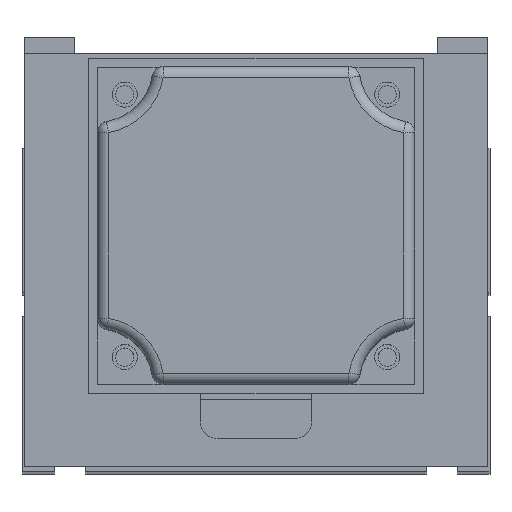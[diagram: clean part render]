
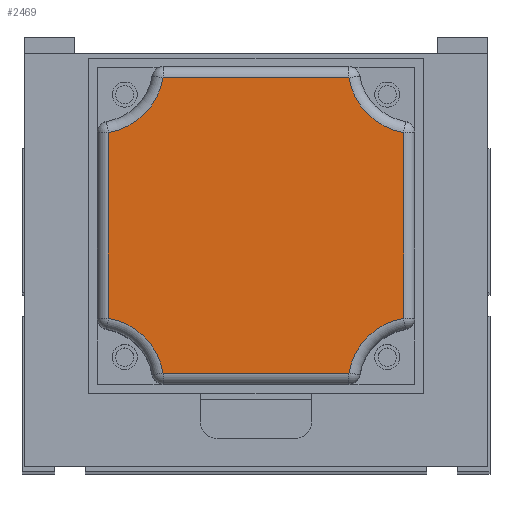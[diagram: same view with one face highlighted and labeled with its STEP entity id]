
A CAD part, top view. The second image highlights one B-rep face of the part: STEP entity #2469.
In plain terms, the highlighted planar face has unit normal (0, 0, 1).
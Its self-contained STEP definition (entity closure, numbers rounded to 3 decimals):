
#1079 = ORIENTED_EDGE ( 'NONE', *, *, #2620, .T. ) ;
#1502 = ORIENTED_EDGE ( 'NONE', *, *, #2414, .T. ) ;
#2375 = EDGE_LOOP ( 'NONE', ( #1502, #2595, #2468, #2593, #2467, #1079, #2604, #2608 ) ) ;
#2414 = EDGE_CURVE ( 'NONE', #2466, #2470, #4605, .T. ) ;
#2418 = VERTEX_POINT ( 'NONE', #4606 ) ;
#2457 = EDGE_CURVE ( 'NONE', #2418, #2589, #4685, .T. ) ;
#2466 = VERTEX_POINT ( 'NONE', #4678 ) ;
#2467 = ORIENTED_EDGE ( 'NONE', *, *, #2588, .T. ) ;
#2468 = ORIENTED_EDGE ( 'NONE', *, *, #2594, .T. ) ;
#2469 = ADVANCED_FACE ( 'NONE', ( #4722 ), #4662, .T. ) ;
#2470 = VERTEX_POINT ( 'NONE', #4712 ) ;
#2584 = VERTEX_POINT ( 'NONE', #4878 ) ;
#2588 = EDGE_CURVE ( 'NONE', #2589, #2592, #4879, .T. ) ;
#2589 = VERTEX_POINT ( 'NONE', #4875 ) ;
#2591 = EDGE_CURVE ( 'NONE', #2470, #2584, #4826, .T. ) ;
#2592 = VERTEX_POINT ( 'NONE', #4880 ) ;
#2593 = ORIENTED_EDGE ( 'NONE', *, *, #2457, .T. ) ;
#2594 = EDGE_CURVE ( 'NONE', #2584, #2418, #4864, .T. ) ;
#2595 = ORIENTED_EDGE ( 'NONE', *, *, #2591, .T. ) ;
#2602 = EDGE_CURVE ( 'NONE', #2609, #2607, #4902, .T. ) ;
#2604 = ORIENTED_EDGE ( 'NONE', *, *, #2602, .T. ) ;
#2605 = EDGE_CURVE ( 'NONE', #2607, #2466, #4877, .T. ) ;
#2607 = VERTEX_POINT ( 'NONE', #4888 ) ;
#2608 = ORIENTED_EDGE ( 'NONE', *, *, #2605, .T. ) ;
#2609 = VERTEX_POINT ( 'NONE', #4887 ) ;
#2620 = EDGE_CURVE ( 'NONE', #2592, #2609, #4649, .T. ) ;
#4603 = DIRECTION ( 'NONE',  ( -1., 0., 0. ) ) ;
#4604 = VECTOR ( 'NONE', #4603, 1000. ) ;
#4605 = LINE ( 'NONE', #4611, #4604 ) ;
#4606 = CARTESIAN_POINT ( 'NONE',  ( 15., 26.332, 151.5 ) ) ;
#4611 = CARTESIAN_POINT ( 'NONE',  ( 23., 69.5, 151.5 ) ) ;
#4631 = DIRECTION ( 'NONE',  ( 1., 0., 0. ) ) ;
#4632 = DIRECTION ( 'NONE',  ( 0., 0., -1. ) ) ;
#4633 = CARTESIAN_POINT ( 'NONE',  ( 70., 14.5, 151.5 ) ) ;
#4634 = AXIS2_PLACEMENT_3D ( 'NONE', #4633, #4632, #4631 ) ;
#4649 = CIRCLE ( 'NONE', #4634, 12. ) ;
#4662 = PLANE ( 'NONE',  #4720 ) ;
#4666 = DIRECTION ( 'NONE',  ( 1., 0., 0. ) ) ;
#4667 = DIRECTION ( 'NONE',  ( 0., 0., -1. ) ) ;
#4668 = CARTESIAN_POINT ( 'NONE',  ( 13., 14.5, 151.5 ) ) ;
#4669 = AXIS2_PLACEMENT_3D ( 'NONE', #4668, #4667, #4666 ) ;
#4678 = CARTESIAN_POINT ( 'NONE',  ( 58.168, 69.5, 151.5 ) ) ;
#4685 = CIRCLE ( 'NONE', #4669, 12. ) ;
#4707 = DIRECTION ( 'NONE',  ( 1., 0., 0. ) ) ;
#4708 = DIRECTION ( 'NONE',  ( 0., 0., 1. ) ) ;
#4709 = CARTESIAN_POINT ( 'NONE',  ( 70., 71.5, 151.5 ) ) ;
#4712 = CARTESIAN_POINT ( 'NONE',  ( 24.832, 69.5, 151.5 ) ) ;
#4720 = AXIS2_PLACEMENT_3D ( 'NONE', #4709, #4708, #4707 ) ;
#4722 = FACE_OUTER_BOUND ( 'NONE', #2375, .T. ) ;
#4826 = CIRCLE ( 'NONE', #4870, 12. ) ;
#4861 = DIRECTION ( 'NONE',  ( 0., -1., 0. ) ) ;
#4862 = VECTOR ( 'NONE', #4861, 1000. ) ;
#4863 = CARTESIAN_POINT ( 'NONE',  ( 15., 24.5, 151.5 ) ) ;
#4864 = LINE ( 'NONE', #4863, #4862 ) ;
#4867 = DIRECTION ( 'NONE',  ( 1., 0., 0. ) ) ;
#4868 = DIRECTION ( 'NONE',  ( 0., 0., -1. ) ) ;
#4869 = CARTESIAN_POINT ( 'NONE',  ( 13., 71.5, 151.5 ) ) ;
#4870 = AXIS2_PLACEMENT_3D ( 'NONE', #4869, #4868, #4867 ) ;
#4872 = DIRECTION ( 'NONE',  ( 1., 0., 0. ) ) ;
#4873 = VECTOR ( 'NONE', #4872, 1000. ) ;
#4874 = CARTESIAN_POINT ( 'NONE',  ( 60., 16.5, 151.5 ) ) ;
#4875 = CARTESIAN_POINT ( 'NONE',  ( 24.832, 16.5, 151.5 ) ) ;
#4877 = CIRCLE ( 'NONE', #4897, 12. ) ;
#4878 = CARTESIAN_POINT ( 'NONE',  ( 15., 59.668, 151.5 ) ) ;
#4879 = LINE ( 'NONE', #4874, #4873 ) ;
#4880 = CARTESIAN_POINT ( 'NONE',  ( 58.168, 16.5, 151.5 ) ) ;
#4887 = CARTESIAN_POINT ( 'NONE',  ( 68., 26.332, 151.5 ) ) ;
#4888 = CARTESIAN_POINT ( 'NONE',  ( 68., 59.668, 151.5 ) ) ;
#4889 = DIRECTION ( 'NONE',  ( 1., 0., 0. ) ) ;
#4897 = AXIS2_PLACEMENT_3D ( 'NONE', #4903, #4911, #4889 ) ;
#4899 = DIRECTION ( 'NONE',  ( 0., 1., 0. ) ) ;
#4900 = VECTOR ( 'NONE', #4899, 1000. ) ;
#4901 = CARTESIAN_POINT ( 'NONE',  ( 68., 61.5, 151.5 ) ) ;
#4902 = LINE ( 'NONE', #4901, #4900 ) ;
#4903 = CARTESIAN_POINT ( 'NONE',  ( 70., 71.5, 151.5 ) ) ;
#4911 = DIRECTION ( 'NONE',  ( 0., 0., -1. ) ) ;
